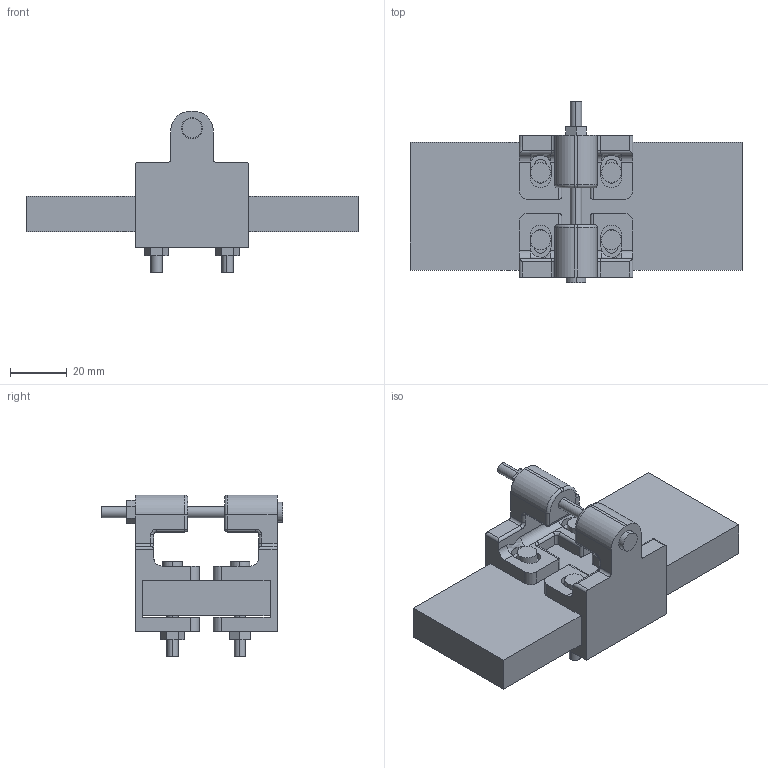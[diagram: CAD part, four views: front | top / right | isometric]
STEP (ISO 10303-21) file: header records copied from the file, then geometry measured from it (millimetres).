
FILE_DESCRIPTION (( 'STEP AP203' ), '1' );
FILE_NAME ('Assemblage_fix_masse.STEP', '2020-03-27T11:08:26', ( '' ), ( '' ), 'SwSTEP 2.0', 'SolidWorks 2020', '' );
FILE_SCHEMA (( 'CONFIG_CONTROL_DESIGN' ));
Length unit declared in the file: millimetre
Products named in the file (7): vis_2; Assemblage_fix_masse; ecrou; vis3; fix_masse; masse_500g; fix1_masse
Assembly tree (13 placements, depth 2):
  Assemblage_fix_masse
    masse_500g
    fix_masse
    fix1_masse
    vis_2  x4
    ecrou  x5
    vis3
Bounding box: 117 x 64 x 57 mm (x, y, z)
Volume: 95554.1 mm3; surface area: 34527.7 mm2
Topology: 13 solids, 13 shells, 318 faces, 798 edges, 508 vertices
Faces by surface type: cylinder 150, plane 144, torus 16, bspline 4, sphere 4
Entity records: 9313 total; most frequent: CARTESIAN_POINT 1859, DIRECTION 1456, ORIENTED_EDGE 1324, EDGE_CURVE 662, AXIS2_PLACEMENT_3D 537, VERTEX_POINT 420, VECTOR 382, LINE 382
